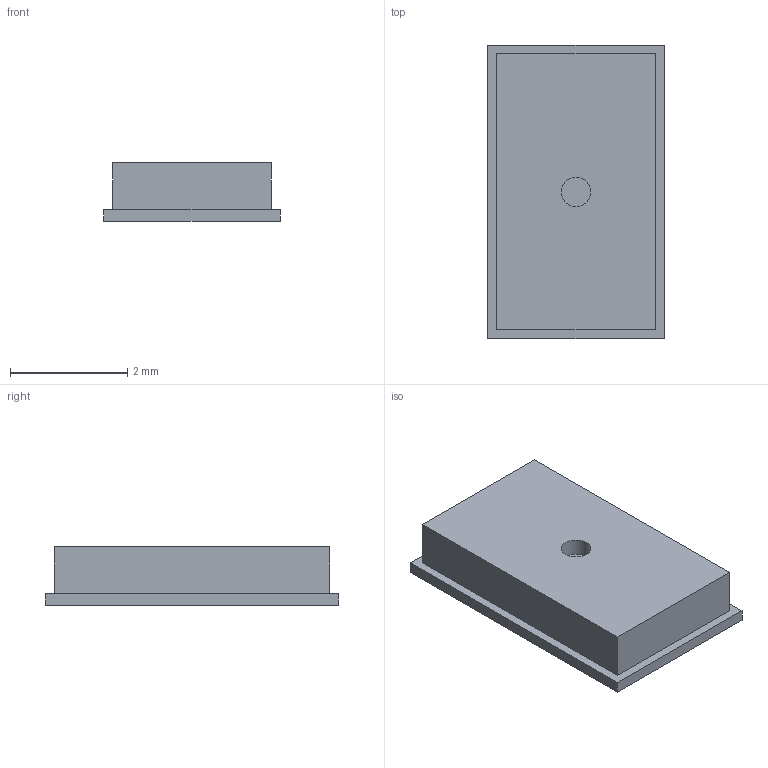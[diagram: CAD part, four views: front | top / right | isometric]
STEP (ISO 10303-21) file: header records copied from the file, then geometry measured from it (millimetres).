
FILE_DESCRIPTION(('Open CASCADE Model'),'2;1');
FILE_NAME('Open CASCADE Shape Model','2026-10-12T20:38:35',('Author'),( 'Open CASCADE'),'Open CASCADE STEP processor 8.0','build123d', 'Unknown');
FILE_SCHEMA(('AUTOMOTIVE_DESIGN { 1 0 10303 214 1 1 1 1 }'));
Length unit declared in the file: millimetre
Products named in the file (3): COMPOUND
Assembly tree (2 placements, depth 2):
  COMPOUND
    COMPOUND
    COMPOUND
Bounding box: 3 x 5 x 1 mm (x, y, z)
Volume: 13.1 mm3; surface area: 70.9 mm2
Topology: 2 solids, 2 shells, 14 faces, 27 edges, 18 vertices
Faces by surface type: plane 13, cylinder 1
Full cylindrical faces by diameter (mm): 0.5 x1
Entity records: 788 total; most frequent: DIRECTION 117, CARTESIAN_POINT 116, LINE 77, VECTOR 77, ORIENTED_EDGE 54, PCURVE 54, DEFINITIONAL_REPRESENTATION 54, EDGE_CURVE 27
